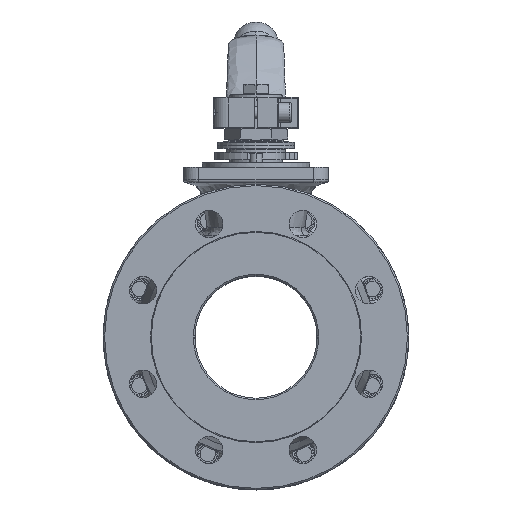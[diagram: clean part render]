
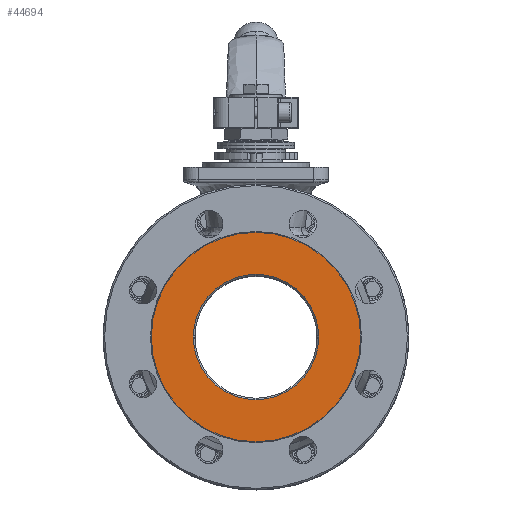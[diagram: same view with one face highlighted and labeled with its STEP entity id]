
A CAD part, top view. The second image highlights one B-rep face of the part: STEP entity #44694.
In plain terms, the highlighted planar face has unit normal (0, 0, 1) as drawn and (0, -1, 0) by its records, which use the part's own axes.
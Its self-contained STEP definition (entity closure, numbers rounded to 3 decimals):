
#1602 = CARTESIAN_POINT ( 'NONE',  ( 0., -64.75, -75.464 ) ) ;
#2436 = DIRECTION ( 'NONE',  ( 0., 0., -1. ) ) ;
#4174 = EDGE_CURVE ( 'NONE', #25327, #18271, #11622, .T. ) ;
#4507 = FACE_OUTER_BOUND ( 'NONE', #49575, .T. ) ;
#5173 = ORIENTED_EDGE ( 'NONE', *, *, #4174, .T. ) ;
#5332 = EDGE_CURVE ( 'NONE', #18271, #25327, #33897, .T. ) ;
#7587 = AXIS2_PLACEMENT_3D ( 'NONE', #50036, #22357, #30578 ) ;
#7781 = VERTEX_POINT ( 'NONE', #13821 ) ;
#8286 = ORIENTED_EDGE ( 'NONE', *, *, #8958, .F. ) ;
#8958 = EDGE_CURVE ( 'NONE', #46837, #7781, #43192, .T. ) ;
#10104 = PLANE ( 'NONE',  #41767 ) ;
#10789 = CARTESIAN_POINT ( 'NONE',  ( 0., -64.75, -41.232 ) ) ;
#11622 = CIRCLE ( 'NONE', #7587, 41. ) ;
#13821 = CARTESIAN_POINT ( 'NONE',  ( 0., -64.75, 61.464 ) ) ;
#16091 = CARTESIAN_POINT ( 'NONE',  ( 0., -64.75, 34. ) ) ;
#18271 = VERTEX_POINT ( 'NONE', #37784 ) ;
#22357 = DIRECTION ( 'NONE',  ( 0., 1., 0. ) ) ;
#22553 = EDGE_LOOP ( 'NONE', ( #38669, #5173 ) ) ;
#25327 = VERTEX_POINT ( 'NONE', #16091 ) ;
#25536 = EDGE_CURVE ( 'NONE', #7781, #46837, #42532, .T. ) ;
#25793 = DIRECTION ( 'NONE',  ( 0., -1., 0. ) ) ;
#27317 = CARTESIAN_POINT ( 'NONE',  ( 0., -64.75, -7. ) ) ;
#30578 = DIRECTION ( 'NONE',  ( 0., 0., -1. ) ) ;
#33146 = AXIS2_PLACEMENT_3D ( 'NONE', #27317, #46935, #38907 ) ;
#33897 = CIRCLE ( 'NONE', #37345, 41. ) ;
#34507 = AXIS2_PLACEMENT_3D ( 'NONE', #43331, #42806, #38704 ) ;
#36865 = DIRECTION ( 'NONE',  ( 0., 0., -1. ) ) ;
#37345 = AXIS2_PLACEMENT_3D ( 'NONE', #47626, #48657, #36865 ) ;
#37784 = CARTESIAN_POINT ( 'NONE',  ( 0., -64.75, -48. ) ) ;
#38669 = ORIENTED_EDGE ( 'NONE', *, *, #5332, .T. ) ;
#38704 = DIRECTION ( 'NONE',  ( 0., 0., 1. ) ) ;
#38907 = DIRECTION ( 'NONE',  ( 0., 0., 1. ) ) ;
#40530 = FACE_BOUND ( 'NONE', #22553, .T. ) ;
#41767 = AXIS2_PLACEMENT_3D ( 'NONE', #10789, #25793, #2436 ) ;
#42532 = CIRCLE ( 'NONE', #33146, 68.464 ) ;
#42806 = DIRECTION ( 'NONE',  ( 0., 1., 0. ) ) ;
#43192 = CIRCLE ( 'NONE', #34507, 68.464 ) ;
#43331 = CARTESIAN_POINT ( 'NONE',  ( 0., -64.75, -7. ) ) ;
#44694 = ADVANCED_FACE ( 'NONE', ( #40530, #4507 ), #10104, .T. ) ;
#46837 = VERTEX_POINT ( 'NONE', #1602 ) ;
#46921 = ORIENTED_EDGE ( 'NONE', *, *, #25536, .F. ) ;
#46935 = DIRECTION ( 'NONE',  ( 0., 1., 0. ) ) ;
#47626 = CARTESIAN_POINT ( 'NONE',  ( 0., -64.75, -7. ) ) ;
#48657 = DIRECTION ( 'NONE',  ( 0., 1., 0. ) ) ;
#49575 = EDGE_LOOP ( 'NONE', ( #46921, #8286 ) ) ;
#50036 = CARTESIAN_POINT ( 'NONE',  ( 0., -64.75, -7. ) ) ;
